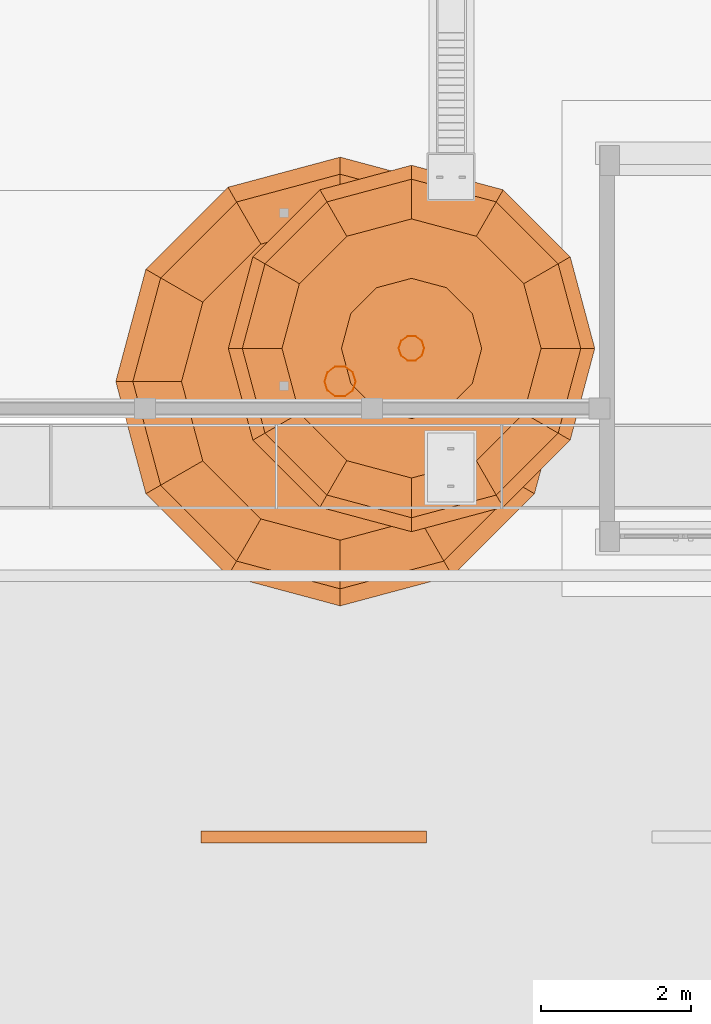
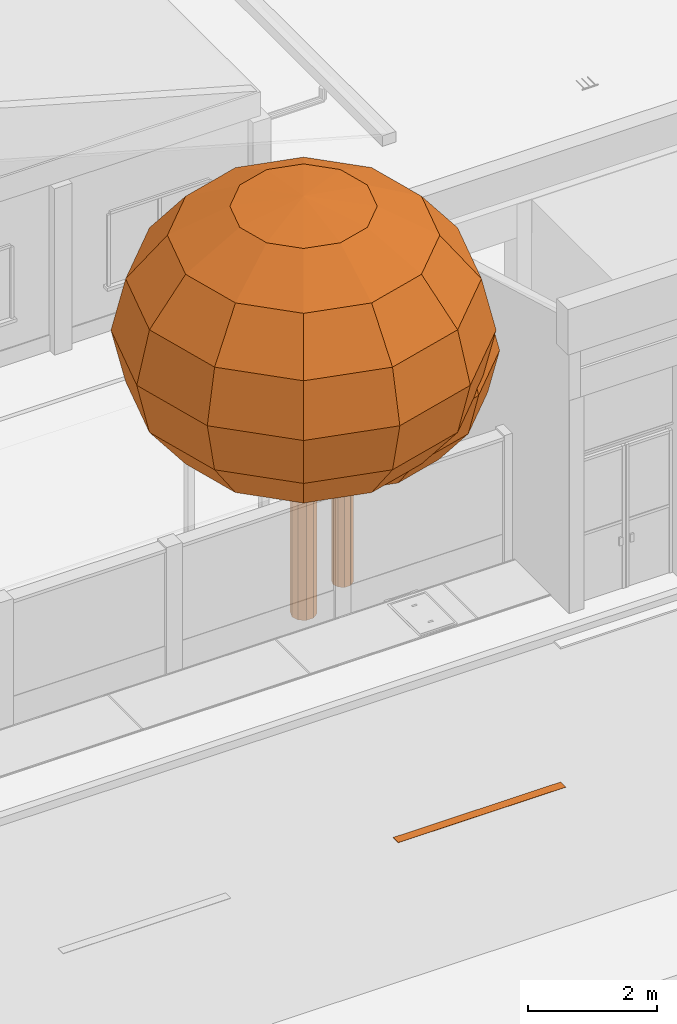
# One storey, part 146 of 166: 5 proxies.
"""IFC2X3 building model written with IfcOpenShell, lengths in metres."""

from ifc_helpers import new_model, si_unit, origin, origin_with_axes, place, context, subcontext, project, spatial, faceted_brep, element, save


model = new_model("IFC2X3")

# Units and contexts
model_context = context("Model", 3, precision=1e-05, world=origin_with_axes())
body_context = subcontext(model_context, "Body", "Model", "MODEL_VIEW")
ifc_project = project(units=[si_unit("LENGTHUNIT", "METRE"), si_unit("AREAUNIT", "SQUARE_METRE"), si_unit("VOLUMEUNIT", "CUBIC_METRE"), si_unit("PLANEANGLEUNIT", "RADIAN")], contexts=[model_context])

# Site, building, storey
site_placement = place(None, origin_with_axes())
site = spatial("IfcSite", under=ifc_project, at=site_placement, Name="Predio Los Mangos - Morales, San Martín", CompositionType="ELEMENT")
building_placement = place(site_placement, origin())
building = spatial("IfcBuilding", under=site, at=building_placement, Name="Hogar de Refugio Temporal", CompositionType="ELEMENT")
storey_placement = place(building_placement, origin())
storey = spatial("IfcBuildingStorey", under=building, at=storey_placement, Name="NIVEL 1 (NPT +0.00)", CompositionType="ELEMENT", Elevation=0.0)

# Proxies
proxy_1_placement = place(storey_placement, origin())
element("IfcBuildingElementProxy", 1, at=proxy_1_placement, inside=storey, Name="linea_carril", ObjectType="Losa deportiva y vía", context=body_context, shape_type="Brep", body=[
    faceted_brep([(26.0, 12.22, 0.02), (26.0, 12.38, 0.02), (29.0, 12.38, 0.02), (29.0, 12.22, 0.02), (26.0, 12.22, 0.025), (29.0, 12.22, 0.025), (29.0, 12.38, 0.025), (26.0, 12.38, 0.025)], [[[0, 1, 2, 3]], [[4, 5, 6, 7]], [[0, 3, 5, 4]], [[3, 2, 6, 5]], [[2, 1, 7, 6]], [[1, 0, 4, 7]]]),
])
proxy_2_placement = place(storey_placement, origin())
element("IfcBuildingElementProxy", 2, at=proxy_2_placement, inside=storey, Name="arbol_tronco", ObjectType="Árbol", context=body_context, shape_type="Brep", body=[
    faceted_brep([(28.0578, 18.36, 0.0), (28.0181, 18.4821, 0.0), (28.0181, 18.4821, 3.1163), (27.9142, 18.5576, 0.0), (27.9142, 18.5576, 3.1163), (27.7858, 18.5576, 0.0), (27.7858, 18.5576, 3.1163), (27.6819, 18.4821, 0.0), (27.6819, 18.4821, 3.1163), (27.6422, 18.36, 0.0), (27.6422, 18.36, 3.1163), (27.6819, 18.2379, 0.0), (27.6819, 18.2379, 3.1163), (27.7858, 18.1624, 0.0), (27.7858, 18.1624, 3.1163), (27.9142, 18.1624, 0.0), (27.9142, 18.1624, 3.1163), (28.0181, 18.2379, 0.0), (28.0181, 18.2379, 3.1163), (28.0578, 18.36, 3.1163)], [[[0, 1, 2]], [[1, 3, 4]], [[3, 5, 6]], [[5, 7, 8]], [[7, 9, 10]], [[9, 11, 12]], [[11, 13, 14]], [[13, 15, 16]], [[15, 17, 18]], [[17, 0, 19]], [[0, 2, 19]], [[1, 4, 2]], [[3, 6, 4]], [[5, 8, 6]], [[7, 10, 8]], [[9, 12, 10]], [[11, 14, 12]], [[13, 16, 14]], [[15, 18, 16]], [[17, 19, 18]]]),
])
proxy_3_placement = place(storey_placement, origin())
element("IfcBuildingElementProxy", 3, at=proxy_3_placement, inside=storey, Name="arbol_copa", ObjectType="Árbol", context=body_context, shape_type="Brep", body=[
    faceted_brep([(27.85, 18.36, 7.8947), (27.85, 18.36, 7.8947), (28.8398, 18.9314, 7.7015), (28.9929, 18.36, 7.7015), (27.85, 18.36, 7.8947), (28.4214, 19.3498, 7.7015), (27.85, 18.36, 7.8947), (27.85, 19.5029, 7.7015), (27.85, 18.36, 7.8947), (27.2786, 19.3498, 7.7015), (27.85, 18.36, 7.8947), (26.8602, 18.9314, 7.7015), (27.85, 18.36, 7.8947), (26.7071, 18.36, 7.7015), (27.85, 18.36, 7.8947), (26.8602, 17.7886, 7.7015), (27.85, 18.36, 7.8947), (27.2786, 17.3702, 7.7015), (27.85, 18.36, 7.8947), (27.85, 17.2171, 7.7015), (27.85, 18.36, 7.8947), (28.4214, 17.3702, 7.7015), (27.85, 18.36, 7.8947), (28.8398, 17.7886, 7.7015), (29.6788, 19.4159, 7.1512), (29.9618, 18.36, 7.1512), (28.9059, 20.1888, 7.1512), (27.85, 20.4718, 7.1512), (26.7941, 20.1888, 7.1512), (26.0212, 19.4159, 7.1512), (25.7382, 18.36, 7.1512), (26.0212, 17.3041, 7.1512), (26.7941, 16.5312, 7.1512), (27.85, 16.2482, 7.1512), (28.9059, 16.5312, 7.1512), (29.6788, 17.3041, 7.1512), (30.2395, 19.7396, 6.3276), (30.6092, 18.36, 6.3276), (29.2296, 20.7495, 6.3276), (27.85, 21.1192, 6.3276), (26.4704, 20.7495, 6.3276), (25.4605, 19.7396, 6.3276), (25.0908, 18.36, 6.3276), (25.4605, 16.9804, 6.3276), (26.4704, 15.9705, 6.3276), (27.85, 15.6008, 6.3276), (29.2296, 15.9705, 6.3276), (30.2395, 16.9804, 6.3276), (30.4364, 19.8532, 5.3562), (30.8365, 18.36, 5.3562), (29.3432, 20.9464, 5.3562), (27.85, 21.3465, 5.3562), (26.3568, 20.9464, 5.3562), (25.2636, 19.8532, 5.3562), (24.8635, 18.36, 5.3562), (25.2636, 16.8668, 5.3562), (26.3568, 15.7736, 5.3562), (27.85, 15.3735, 5.3562), (29.3432, 15.7736, 5.3562), (30.4364, 16.8668, 5.3562), (30.2395, 19.7396, 4.3848), (30.6092, 18.36, 4.3848), (29.2296, 20.7495, 4.3848), (27.85, 21.1192, 4.3848), (26.4704, 20.7495, 4.3848), (25.4605, 19.7396, 4.3848), (25.0908, 18.36, 4.3848), (25.4605, 16.9804, 4.3848), (26.4704, 15.9705, 4.3848), (27.85, 15.6008, 4.3848), (29.2296, 15.9705, 4.3848), (30.2395, 16.9804, 4.3848), (29.6788, 19.4159, 3.5612), (29.9618, 18.36, 3.5612), (28.9059, 20.1888, 3.5612), (27.85, 20.4718, 3.5612), (26.7941, 20.1888, 3.5612), (26.0212, 19.4159, 3.5612), (25.7382, 18.36, 3.5612), (26.0212, 17.3041, 3.5612), (26.7941, 16.5312, 3.5612), (27.85, 16.2482, 3.5612), (28.9059, 16.5312, 3.5612), (29.6788, 17.3041, 3.5612), (28.8398, 18.9314, 3.0109), (28.9929, 18.36, 3.0109), (28.4214, 19.3498, 3.0109), (27.85, 19.5029, 3.0109), (27.2786, 19.3498, 3.0109), (26.8602, 18.9314, 3.0109), (26.7071, 18.36, 3.0109), (26.8602, 17.7886, 3.0109), (27.2786, 17.3702, 3.0109), (27.85, 17.2171, 3.0109), (28.4214, 17.3702, 3.0109), (28.8398, 17.7886, 3.0109), (27.85, 18.36, 2.8177), (27.85, 18.36, 2.8177), (27.85, 18.36, 2.8177), (27.85, 18.36, 2.8177), (27.85, 18.36, 2.8177), (27.85, 18.36, 2.8177), (27.85, 18.36, 2.8177), (27.85, 18.36, 2.8177), (27.85, 18.36, 2.8177), (27.85, 18.36, 2.8177), (27.85, 18.36, 2.8177), (27.85, 18.36, 2.8177)], [[[0, 1, 2]], [[0, 2, 3]], [[1, 4, 5]], [[1, 5, 2]], [[4, 6, 7]], [[4, 7, 5]], [[6, 8, 9]], [[6, 9, 7]], [[8, 10, 11]], [[8, 11, 9]], [[10, 12, 13]], [[10, 13, 11]], [[12, 14, 15]], [[12, 15, 13]], [[14, 16, 17]], [[14, 17, 15]], [[16, 18, 19]], [[16, 19, 17]], [[18, 20, 21]], [[18, 21, 19]], [[20, 22, 23]], [[20, 23, 21]], [[22, 0, 3]], [[22, 3, 23]], [[3, 2, 24]], [[3, 24, 25]], [[2, 5, 26]], [[2, 26, 24]], [[5, 7, 27]], [[5, 27, 26]], [[7, 9, 28]], [[7, 28, 27]], [[9, 11, 29]], [[9, 29, 28]], [[11, 13, 30]], [[11, 30, 29]], [[13, 15, 31]], [[13, 31, 30]], [[15, 17, 32]], [[15, 32, 31]], [[17, 19, 33]], [[17, 33, 32]], [[19, 21, 34]], [[19, 34, 33]], [[21, 23, 35]], [[21, 35, 34]], [[23, 3, 25]], [[23, 25, 35]], [[25, 24, 36]], [[25, 36, 37]], [[24, 26, 38]], [[24, 38, 36]], [[26, 27, 39]], [[26, 39, 38]], [[27, 28, 40]], [[27, 40, 39]], [[28, 29, 41]], [[28, 41, 40]], [[29, 30, 42]], [[29, 42, 41]], [[30, 31, 43]], [[30, 43, 42]], [[31, 32, 44]], [[31, 44, 43]], [[32, 33, 45]], [[32, 45, 44]], [[33, 34, 46]], [[33, 46, 45]], [[34, 35, 47]], [[34, 47, 46]], [[35, 25, 37]], [[35, 37, 47]], [[37, 36, 48]], [[37, 48, 49]], [[36, 38, 50]], [[36, 50, 48]], [[38, 39, 51]], [[38, 51, 50]], [[39, 40, 52]], [[39, 52, 51]], [[40, 41, 53]], [[40, 53, 52]], [[41, 42, 54]], [[41, 54, 53]], [[42, 43, 55]], [[42, 55, 54]], [[43, 44, 56]], [[43, 56, 55]], [[44, 45, 57]], [[44, 57, 56]], [[45, 46, 58]], [[45, 58, 57]], [[46, 47, 59]], [[46, 59, 58]], [[47, 37, 49]], [[47, 49, 59]], [[49, 48, 60]], [[49, 60, 61]], [[48, 50, 62]], [[48, 62, 60]], [[50, 51, 63]], [[50, 63, 62]], [[51, 52, 64]], [[51, 64, 63]], [[52, 53, 65]], [[52, 65, 64]], [[53, 54, 66]], [[53, 66, 65]], [[54, 55, 67]], [[54, 67, 66]], [[55, 56, 68]], [[55, 68, 67]], [[56, 57, 69]], [[56, 69, 68]], [[57, 58, 70]], [[57, 70, 69]], [[58, 59, 71]], [[58, 71, 70]], [[59, 49, 61]], [[59, 61, 71]], [[61, 60, 72]], [[61, 72, 73]], [[60, 62, 74]], [[60, 74, 72]], [[62, 63, 75]], [[62, 75, 74]], [[63, 64, 76]], [[63, 76, 75]], [[64, 65, 77]], [[64, 77, 76]], [[65, 66, 78]], [[65, 78, 77]], [[66, 67, 79]], [[66, 79, 78]], [[67, 68, 80]], [[67, 80, 79]], [[68, 69, 81]], [[68, 81, 80]], [[69, 70, 82]], [[69, 82, 81]], [[70, 71, 83]], [[70, 83, 82]], [[71, 61, 73]], [[71, 73, 83]], [[73, 72, 84]], [[73, 84, 85]], [[72, 74, 86]], [[72, 86, 84]], [[74, 75, 87]], [[74, 87, 86]], [[75, 76, 88]], [[75, 88, 87]], [[76, 77, 89]], [[76, 89, 88]], [[77, 78, 90]], [[77, 90, 89]], [[78, 79, 91]], [[78, 91, 90]], [[79, 80, 92]], [[79, 92, 91]], [[80, 81, 93]], [[80, 93, 92]], [[81, 82, 94]], [[81, 94, 93]], [[82, 83, 95]], [[82, 95, 94]], [[83, 73, 85]], [[83, 85, 95]], [[85, 84, 96]], [[85, 96, 97]], [[84, 86, 98]], [[84, 98, 96]], [[86, 87, 99]], [[86, 99, 98]], [[87, 88, 100]], [[87, 100, 99]], [[88, 89, 101]], [[88, 101, 100]], [[89, 90, 102]], [[89, 102, 101]], [[90, 91, 103]], [[90, 103, 102]], [[91, 92, 104]], [[91, 104, 103]], [[92, 93, 105]], [[92, 105, 104]], [[93, 94, 106]], [[93, 106, 105]], [[94, 95, 107]], [[94, 107, 106]], [[95, 85, 97]], [[95, 97, 107]]]),
])
proxy_4_placement = place(storey_placement, origin())
element("IfcBuildingElementProxy", 4, at=proxy_4_placement, inside=storey, Name="arbol_tronco", ObjectType="Árbol", context=body_context, shape_type="Brep", body=[
    faceted_brep([(28.9696, 18.8, 0.0), (28.9372, 18.8997, 0.0), (28.9372, 18.8997, 2.5446), (28.8524, 18.9613, 0.0), (28.8524, 18.9613, 2.5446), (28.7476, 18.9613, 0.0), (28.7476, 18.9613, 2.5446), (28.6628, 18.8997, 0.0), (28.6628, 18.8997, 2.5446), (28.6304, 18.8, 0.0), (28.6304, 18.8, 2.5446), (28.6628, 18.7003, 0.0), (28.6628, 18.7003, 2.5446), (28.7476, 18.6387, 0.0), (28.7476, 18.6387, 2.5446), (28.8524, 18.6387, 0.0), (28.8524, 18.6387, 2.5446), (28.9372, 18.7003, 0.0), (28.9372, 18.7003, 2.5446), (28.9696, 18.8, 2.5446)], [[[0, 1, 2]], [[1, 3, 4]], [[3, 5, 6]], [[5, 7, 8]], [[7, 9, 10]], [[9, 11, 12]], [[11, 13, 14]], [[13, 15, 16]], [[15, 17, 18]], [[17, 0, 19]], [[0, 2, 19]], [[1, 4, 2]], [[3, 6, 4]], [[5, 8, 6]], [[7, 10, 8]], [[9, 12, 10]], [[11, 14, 12]], [[13, 16, 14]], [[15, 18, 16]], [[17, 19, 18]]]),
])
proxy_5_placement = place(storey_placement, origin())
element("IfcBuildingElementProxy", 5, at=proxy_5_placement, inside=storey, Name="arbol_copa", ObjectType="Árbol", context=body_context, shape_type="Brep", body=[
    faceted_brep([(28.8, 18.8, 6.4463), (28.8, 18.8, 6.4463), (29.6082, 19.2666, 6.2885), (29.7332, 18.8, 6.2885), (28.8, 18.8, 6.4463), (29.2666, 19.6082, 6.2885), (28.8, 18.8, 6.4463), (28.8, 19.7332, 6.2885), (28.8, 18.8, 6.4463), (28.3334, 19.6082, 6.2885), (28.8, 18.8, 6.4463), (27.9918, 19.2666, 6.2885), (28.8, 18.8, 6.4463), (27.8668, 18.8, 6.2885), (28.8, 18.8, 6.4463), (27.9918, 18.3334, 6.2885), (28.8, 18.8, 6.4463), (28.3334, 17.9918, 6.2885), (28.8, 18.8, 6.4463), (28.8, 17.8668, 6.2885), (28.8, 18.8, 6.4463), (29.2666, 17.9918, 6.2885), (28.8, 18.8, 6.4463), (29.6082, 18.3334, 6.2885), (30.2933, 19.6622, 5.8392), (30.5243, 18.8, 5.8392), (29.6622, 20.2933, 5.8392), (28.8, 20.5243, 5.8392), (27.9378, 20.2933, 5.8392), (27.3067, 19.6622, 5.8392), (27.0757, 18.8, 5.8392), (27.3067, 17.9378, 5.8392), (27.9378, 17.3067, 5.8392), (28.8, 17.0757, 5.8392), (29.6622, 17.3067, 5.8392), (30.2933, 17.9378, 5.8392), (30.7511, 19.9265, 5.1667), (31.0529, 18.8, 5.1667), (29.9265, 20.7511, 5.1667), (28.8, 21.0529, 5.1667), (27.6735, 20.7511, 5.1667), (26.8489, 19.9265, 5.1667), (26.5471, 18.8, 5.1667), (26.8489, 17.6735, 5.1667), (27.6735, 16.8489, 5.1667), (28.8, 16.5471, 5.1667), (29.9265, 16.8489, 5.1667), (30.7511, 17.6735, 5.1667), (30.9119, 20.0193, 4.3735), (31.2386, 18.8, 4.3735), (30.0193, 20.9119, 4.3735), (28.8, 21.2386, 4.3735), (27.5807, 20.9119, 4.3735), (26.6881, 20.0193, 4.3735), (26.3614, 18.8, 4.3735), (26.6881, 17.5807, 4.3735), (27.5807, 16.6881, 4.3735), (28.8, 16.3614, 4.3735), (30.0193, 16.6881, 4.3735), (30.9119, 17.5807, 4.3735), (30.7511, 19.9265, 3.5803), (31.0529, 18.8, 3.5803), (29.9265, 20.7511, 3.5803), (28.8, 21.0529, 3.5803), (27.6735, 20.7511, 3.5803), (26.8489, 19.9265, 3.5803), (26.5471, 18.8, 3.5803), (26.8489, 17.6735, 3.5803), (27.6735, 16.8489, 3.5803), (28.8, 16.5471, 3.5803), (29.9265, 16.8489, 3.5803), (30.7511, 17.6735, 3.5803), (30.2933, 19.6622, 2.9078), (30.5243, 18.8, 2.9078), (29.6622, 20.2933, 2.9078), (28.8, 20.5243, 2.9078), (27.9378, 20.2933, 2.9078), (27.3067, 19.6622, 2.9078), (27.0757, 18.8, 2.9078), (27.3067, 17.9378, 2.9078), (27.9378, 17.3067, 2.9078), (28.8, 17.0757, 2.9078), (29.6622, 17.3067, 2.9078), (30.2933, 17.9378, 2.9078), (29.6082, 19.2666, 2.4585), (29.7332, 18.8, 2.4585), (29.2666, 19.6082, 2.4585), (28.8, 19.7332, 2.4585), (28.3334, 19.6082, 2.4585), (27.9918, 19.2666, 2.4585), (27.8668, 18.8, 2.4585), (27.9918, 18.3334, 2.4585), (28.3334, 17.9918, 2.4585), (28.8, 17.8668, 2.4585), (29.2666, 17.9918, 2.4585), (29.6082, 18.3334, 2.4585), (28.8, 18.8, 2.3007), (28.8, 18.8, 2.3007), (28.8, 18.8, 2.3007), (28.8, 18.8, 2.3007), (28.8, 18.8, 2.3007), (28.8, 18.8, 2.3007), (28.8, 18.8, 2.3007), (28.8, 18.8, 2.3007), (28.8, 18.8, 2.3007), (28.8, 18.8, 2.3007), (28.8, 18.8, 2.3007), (28.8, 18.8, 2.3007)], [[[0, 1, 2]], [[0, 2, 3]], [[1, 4, 5]], [[1, 5, 2]], [[4, 6, 7]], [[4, 7, 5]], [[6, 8, 9]], [[6, 9, 7]], [[8, 10, 11]], [[8, 11, 9]], [[10, 12, 13]], [[10, 13, 11]], [[12, 14, 15]], [[12, 15, 13]], [[14, 16, 17]], [[14, 17, 15]], [[16, 18, 19]], [[16, 19, 17]], [[18, 20, 21]], [[18, 21, 19]], [[20, 22, 23]], [[20, 23, 21]], [[22, 0, 3]], [[22, 3, 23]], [[3, 2, 24]], [[3, 24, 25]], [[2, 5, 26]], [[2, 26, 24]], [[5, 7, 27]], [[5, 27, 26]], [[7, 9, 28]], [[7, 28, 27]], [[9, 11, 29]], [[9, 29, 28]], [[11, 13, 30]], [[11, 30, 29]], [[13, 15, 31]], [[13, 31, 30]], [[15, 17, 32]], [[15, 32, 31]], [[17, 19, 33]], [[17, 33, 32]], [[19, 21, 34]], [[19, 34, 33]], [[21, 23, 35]], [[21, 35, 34]], [[23, 3, 25]], [[23, 25, 35]], [[25, 24, 36]], [[25, 36, 37]], [[24, 26, 38]], [[24, 38, 36]], [[26, 27, 39]], [[26, 39, 38]], [[27, 28, 40]], [[27, 40, 39]], [[28, 29, 41]], [[28, 41, 40]], [[29, 30, 42]], [[29, 42, 41]], [[30, 31, 43]], [[30, 43, 42]], [[31, 32, 44]], [[31, 44, 43]], [[32, 33, 45]], [[32, 45, 44]], [[33, 34, 46]], [[33, 46, 45]], [[34, 35, 47]], [[34, 47, 46]], [[35, 25, 37]], [[35, 37, 47]], [[37, 36, 48]], [[37, 48, 49]], [[36, 38, 50]], [[36, 50, 48]], [[38, 39, 51]], [[38, 51, 50]], [[39, 40, 52]], [[39, 52, 51]], [[40, 41, 53]], [[40, 53, 52]], [[41, 42, 54]], [[41, 54, 53]], [[42, 43, 55]], [[42, 55, 54]], [[43, 44, 56]], [[43, 56, 55]], [[44, 45, 57]], [[44, 57, 56]], [[45, 46, 58]], [[45, 58, 57]], [[46, 47, 59]], [[46, 59, 58]], [[47, 37, 49]], [[47, 49, 59]], [[49, 48, 60]], [[49, 60, 61]], [[48, 50, 62]], [[48, 62, 60]], [[50, 51, 63]], [[50, 63, 62]], [[51, 52, 64]], [[51, 64, 63]], [[52, 53, 65]], [[52, 65, 64]], [[53, 54, 66]], [[53, 66, 65]], [[54, 55, 67]], [[54, 67, 66]], [[55, 56, 68]], [[55, 68, 67]], [[56, 57, 69]], [[56, 69, 68]], [[57, 58, 70]], [[57, 70, 69]], [[58, 59, 71]], [[58, 71, 70]], [[59, 49, 61]], [[59, 61, 71]], [[61, 60, 72]], [[61, 72, 73]], [[60, 62, 74]], [[60, 74, 72]], [[62, 63, 75]], [[62, 75, 74]], [[63, 64, 76]], [[63, 76, 75]], [[64, 65, 77]], [[64, 77, 76]], [[65, 66, 78]], [[65, 78, 77]], [[66, 67, 79]], [[66, 79, 78]], [[67, 68, 80]], [[67, 80, 79]], [[68, 69, 81]], [[68, 81, 80]], [[69, 70, 82]], [[69, 82, 81]], [[70, 71, 83]], [[70, 83, 82]], [[71, 61, 73]], [[71, 73, 83]], [[73, 72, 84]], [[73, 84, 85]], [[72, 74, 86]], [[72, 86, 84]], [[74, 75, 87]], [[74, 87, 86]], [[75, 76, 88]], [[75, 88, 87]], [[76, 77, 89]], [[76, 89, 88]], [[77, 78, 90]], [[77, 90, 89]], [[78, 79, 91]], [[78, 91, 90]], [[79, 80, 92]], [[79, 92, 91]], [[80, 81, 93]], [[80, 93, 92]], [[81, 82, 94]], [[81, 94, 93]], [[82, 83, 95]], [[82, 95, 94]], [[83, 73, 85]], [[83, 85, 95]], [[85, 84, 96]], [[85, 96, 97]], [[84, 86, 98]], [[84, 98, 96]], [[86, 87, 99]], [[86, 99, 98]], [[87, 88, 100]], [[87, 100, 99]], [[88, 89, 101]], [[88, 101, 100]], [[89, 90, 102]], [[89, 102, 101]], [[90, 91, 103]], [[90, 103, 102]], [[91, 92, 104]], [[91, 104, 103]], [[92, 93, 105]], [[92, 105, 104]], [[93, 94, 106]], [[93, 106, 105]], [[94, 95, 107]], [[94, 107, 106]], [[95, 85, 97]], [[95, 97, 107]]]),
])

save(model, "model.ifc")
